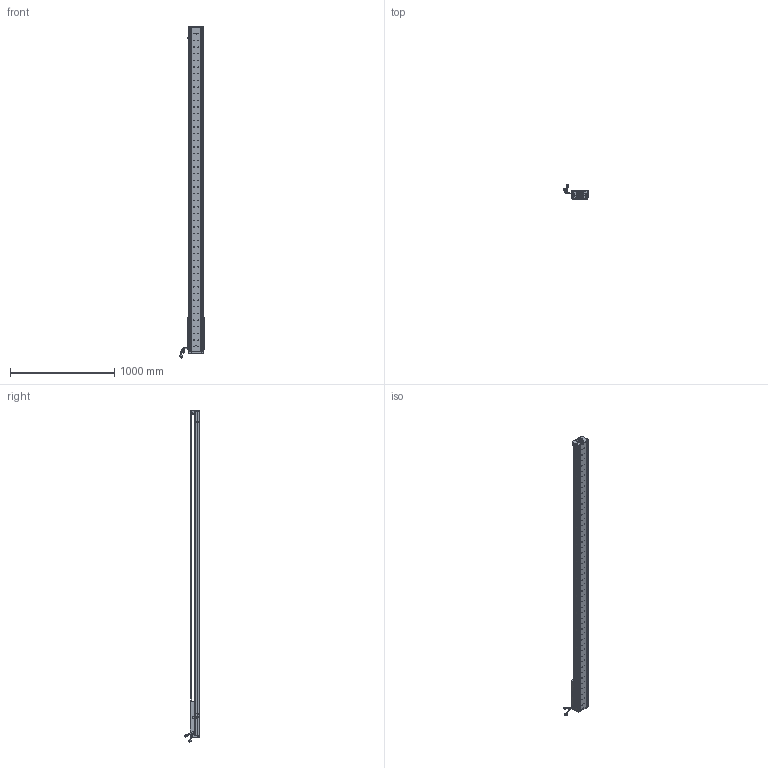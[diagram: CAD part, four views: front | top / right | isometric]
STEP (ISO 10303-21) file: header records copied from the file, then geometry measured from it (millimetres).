
FILE_DESCRIPTION (( 'STEP AP203' ), '1' );
FILE_NAME ('Z4-RY140D-1-L500-B-K.SLDASM_2750.step', '2021-05-17T08:21:13', ( '盈信电脑' ), ( '东莞市道滘镇水果街19号' ), 'SwSTEP 2.0', 'SolidWorks 2016', '' );
FILE_SCHEMA (( 'CONFIG_CONTROL_DESIGN' ));
Length unit declared in the file: millimetre
Products named in the file (36): SCALE; 080黍杅芛假蚾釱21遴; 140-Z-臏賑輸盄裔(21遴); SCALE-Part-1; SCREW-M1.6; SCREW-M1.6-2; 覜茼ん672; SCALE-Part-2; SCREW-M1.6-3; SCREW-M1.7; SCREW-M1.6-1; 140雄赽晤鎢ん堤盄; SHIELDPLATE; Z4-RY140-L500直线电机模组底座_2750; 140蚥薯蝶輸; LABEL; Z4-RY140-L500詩湍100mm遵_2750; COVER; 詩湍狟揤裔; SEAL; HARNESS-Part-1; Z4-RY140圉猾敕臏賑輸(21遴); HARNESS-Part-2; COVER-Part-1; 榋妏寠巭燃_暯_M2_2; HARNESS; HOLDER0; 詩湍奻揤裔; SEAL-Part-1; PBU_SHEET; Z-140詩湍傷裔啣; SCREW-M1.7-1; Z4-RY140D-1-L500-B-K.SLDASM_2750; Z-RY140感应器672光电感应片; LABEL-Part-1; PSLH080_PSLF2
Assembly tree (41 placements, depth 4):
  Z4-RY140D-1-L500-B-K.SLDASM_2750
    Z4-RY140-L500直线电机模组底座_2750
    Z-RY140感应器672光电感应片
    Z4-RY140圉猾敕臏賑輸(21遴)
    覜茼ん672  x3
    Z4-RY140-L500詩湍100mm遵_2750
    PSLH080_PSLF2
      SCALE
        SCALE-Part-1
        SCALE-Part-2
      HARNESS
        HARNESS-Part-1
        HARNESS-Part-2
      LABEL
        LABEL-Part-1
      COVER
        COVER-Part-1
      SEAL
        SEAL-Part-1
      榋妏寠巭燃_暯_M2_2
      SHIELDPLATE
      SCREW-M1.7
      SCREW-M1.7-1
      PBU_SHEET
      SCREW-M1.6
      SCREW-M1.6-1
      SCREW-M1.6-2
      SCREW-M1.6-3
      HOLDER0
    080黍杅芛假蚾釱21遴
    140-Z-臏賑輸盄裔(21遴)
    Z-140詩湍傷裔啣  x2
    詩湍狟揤裔  x2
    詩湍奻揤裔  x2
    140蚥薯蝶輸  x2
    140雄赽晤鎢ん堤盄
Bounding box: 239.79 x 143.88 x 3190.87 mm (x, y, z)
Volume: 10231262.8 mm3; surface area: 2648057.4 mm2
Topology: 36 solids, 36 shells, 4504 faces, 12330 edges, 7811 vertices
Faces by surface type: cylinder 2502, plane 1442, cone 438, torus 69, bspline 53
Entity records: 145174 total; most frequent: CARTESIAN_POINT 41797, ORIENTED_EDGE 21508, DIRECTION 19674, EDGE_CURVE 10754, AXIS2_PLACEMENT_3D 7336, VERTEX_POINT 6979, LINE 5002, VECTOR 5002
